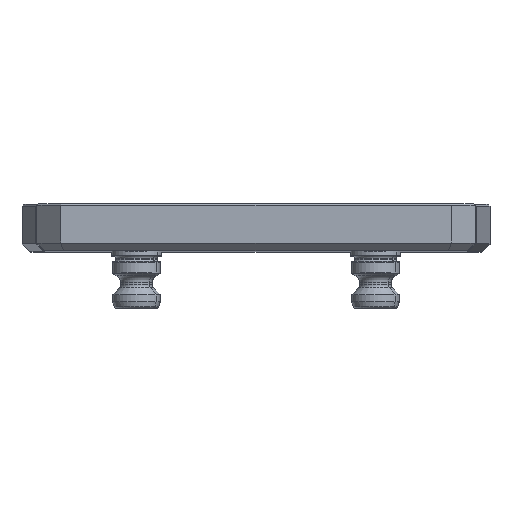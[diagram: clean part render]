
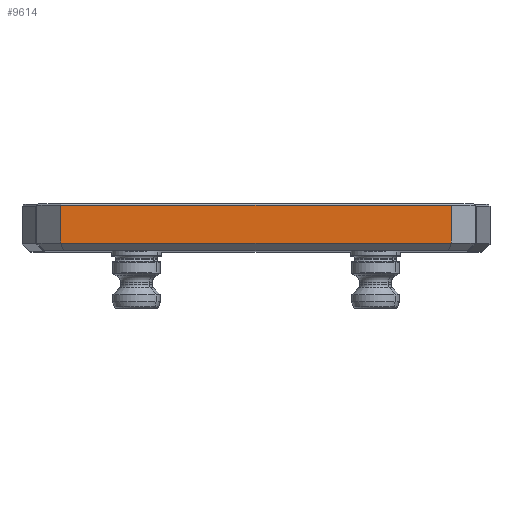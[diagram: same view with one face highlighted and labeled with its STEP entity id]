
A CAD part, top view. The second image highlights one B-rep face of the part: STEP entity #9614.
In plain terms, the highlighted planar face has unit normal (0, 0, 1).
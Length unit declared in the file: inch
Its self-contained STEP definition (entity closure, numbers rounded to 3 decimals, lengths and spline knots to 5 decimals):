
#317 = VERTEX_POINT ( 'NONE', #1128 ) ;
#335 = EDGE_CURVE ( 'NONE', #3767, #5748, #7507, .T. ) ;
#1128 = CARTESIAN_POINT ( 'NONE',  ( 3.09, 0.125, 6.65354 ) ) ;
#1673 = CARTESIAN_POINT ( 'NONE',  ( -3.09, 0.125, 6.65354 ) ) ;
#1720 = AXIS2_PLACEMENT_3D ( 'NONE', #9883, #2474, #8274 ) ;
#2256 = EDGE_CURVE ( 'NONE', #5748, #317, #7745, .T. ) ;
#2474 = DIRECTION ( 'NONE',  ( 0., 0., -1. ) ) ;
#2999 = VECTOR ( 'NONE', #4283, 39.37008 ) ;
#3767 = VERTEX_POINT ( 'NONE', #6553 ) ;
#4283 = DIRECTION ( 'NONE',  ( -1., 0., 0. ) ) ;
#4981 = PLANE ( 'NONE',  #1720 ) ;
#5058 = EDGE_CURVE ( 'NONE', #7757, #3767, #7148, .T. ) ;
#5134 = FACE_OUTER_BOUND ( 'NONE', #5137, .T. ) ;
#5137 = EDGE_LOOP ( 'NONE', ( #6717, #8105, #5733, #6858 ) ) ;
#5325 = VECTOR ( 'NONE', #8564, 39.37008 ) ;
#5330 = CARTESIAN_POINT ( 'NONE',  ( 3.09, 0.72, 6.65354 ) ) ;
#5733 = ORIENTED_EDGE ( 'NONE', *, *, #7026, .T. ) ;
#5748 = VERTEX_POINT ( 'NONE', #1673 ) ;
#6553 = CARTESIAN_POINT ( 'NONE',  ( -3.09, 0.72, 6.65354 ) ) ;
#6717 = ORIENTED_EDGE ( 'NONE', *, *, #335, .T. ) ;
#6848 = LINE ( 'NONE', #6887, #8762 ) ;
#6858 = ORIENTED_EDGE ( 'NONE', *, *, #5058, .T. ) ;
#6887 = CARTESIAN_POINT ( 'NONE',  ( 3.09, 0.75, 6.65354 ) ) ;
#7026 = EDGE_CURVE ( 'NONE', #317, #7757, #6848, .T. ) ;
#7148 = LINE ( 'NONE', #10030, #2999 ) ;
#7490 = VECTOR ( 'NONE', #7620, 39.37008 ) ;
#7507 = LINE ( 'NONE', #9489, #5325 ) ;
#7620 = DIRECTION ( 'NONE',  ( 1., 0., 0. ) ) ;
#7704 = DIRECTION ( 'NONE',  ( 0., 1., 0. ) ) ;
#7745 = LINE ( 'NONE', #10839, #7490 ) ;
#7757 = VERTEX_POINT ( 'NONE', #5330 ) ;
#8105 = ORIENTED_EDGE ( 'NONE', *, *, #2256, .T. ) ;
#8274 = DIRECTION ( 'NONE',  ( -1., 0., 0. ) ) ;
#8564 = DIRECTION ( 'NONE',  ( 0., -1., 0. ) ) ;
#8762 = VECTOR ( 'NONE', #7704, 39.37008 ) ;
#9489 = CARTESIAN_POINT ( 'NONE',  ( -3.09, 0.75, 6.65354 ) ) ;
#9614 = ADVANCED_FACE ( 'NONE', ( #5134 ), #4981, .F. ) ;
#9883 = CARTESIAN_POINT ( 'NONE',  ( -3.7, 0.75, 6.65354 ) ) ;
#10030 = CARTESIAN_POINT ( 'NONE',  ( -3.09, 0.72, 6.65354 ) ) ;
#10839 = CARTESIAN_POINT ( 'NONE',  ( -3.7, 0.125, 6.65354 ) ) ;
